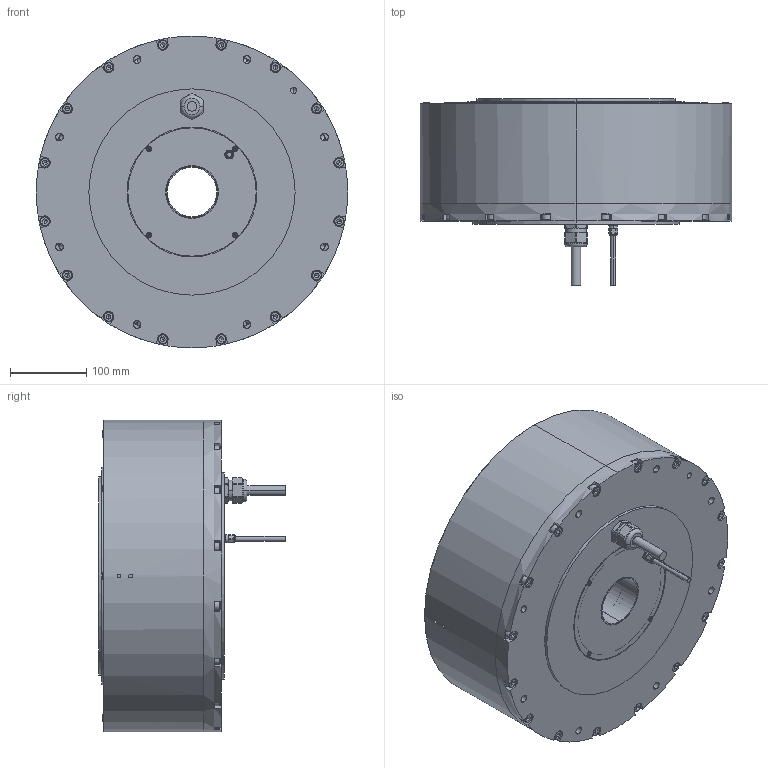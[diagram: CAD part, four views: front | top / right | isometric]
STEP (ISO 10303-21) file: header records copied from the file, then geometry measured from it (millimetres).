
FILE_DESCRIPTION (( 'STEP AP214' ), '1' );
FILE_NAME ('ND400-160-LSB-UC.step', '2025-03-11T01:14:32', ( '' ), ( '' ), 'SwSTEP 2.0', 'SolidWorks 2024', '' );
FILE_SCHEMA (( 'AUTOMOTIVE_DESIGN' ));
Length unit declared in the file: millimetre
Products named in the file (1): ND400-160-LSB-UC
Bounding box: 408 x 244 x 408 mm (x, y, z)
Volume: 6489398.9 mm3; surface area: 1123158 mm2
Topology: 47 solids, 47 shells, 1593 faces, 3922 edges, 2383 vertices
Faces by surface type: cylinder 727, plane 398, cone 338, torus 102, sphere 28
Entity records: 49234 total; most frequent: CARTESIAN_POINT 11417, DIRECTION 8125, ORIENTED_EDGE 7468, EDGE_CURVE 3734, AXIS2_PLACEMENT_3D 3281, VERTEX_POINT 2383, EDGE_LOOP 1859, CIRCLE 1687
